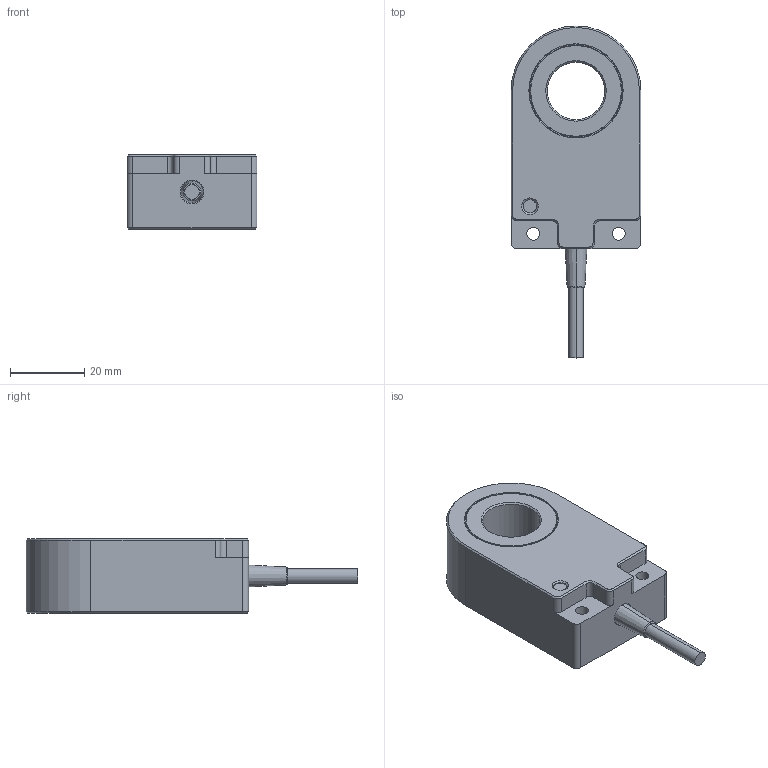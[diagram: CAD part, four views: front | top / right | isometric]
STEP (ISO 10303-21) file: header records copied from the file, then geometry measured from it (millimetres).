
FILE_DESCRIPTION (( 'STEP AP203' ), '1' );
FILE_NAME ('TH15.STEP', '2016-06-30T08:07:23', ( '' ), ( '' ), 'SwSTEP 2.0', 'SolidWorks 2013', '' );
FILE_SCHEMA (( 'CONFIG_CONTROL_DESIGN' ));
Length unit declared in the file: millimetre
Products named in the file (1): TH15
Bounding box: 35 x 89.5 x 20 mm (x, y, z)
Volume: 34751.9 mm3; surface area: 9042.8 mm2
Topology: 2 solids, 2 shells, 100 faces, 220 edges, 136 vertices
Faces by surface type: cylinder 37, plane 37, cone 24, torus 2
Entity records: 2841 total; most frequent: DIRECTION 528, CARTESIAN_POINT 457, ORIENTED_EDGE 440, EDGE_CURVE 220, AXIS2_PLACEMENT_3D 207, VERTEX_POINT 136, EDGE_LOOP 118, LINE 114
